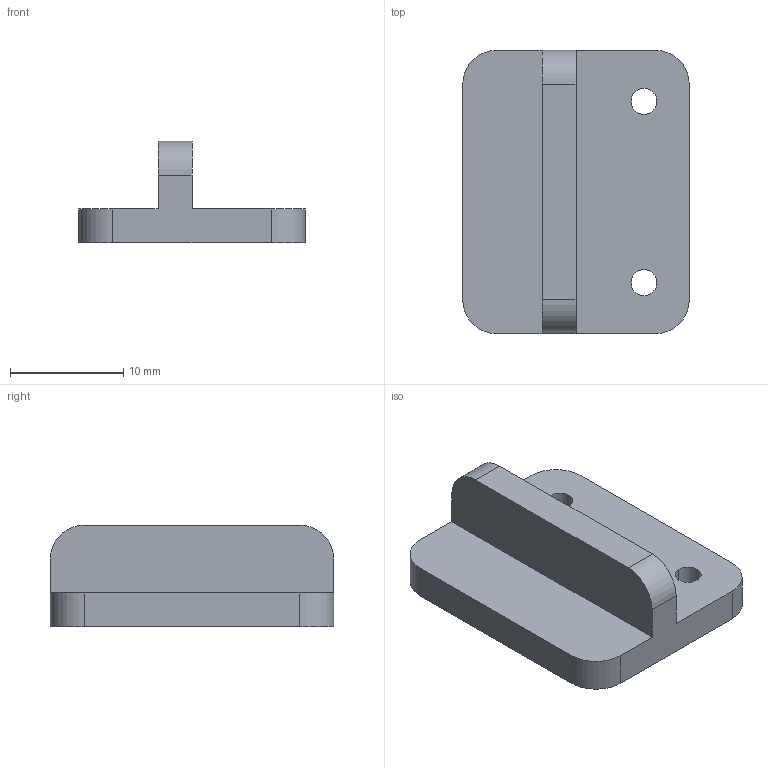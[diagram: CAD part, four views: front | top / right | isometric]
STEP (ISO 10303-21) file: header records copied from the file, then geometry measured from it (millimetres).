
FILE_DESCRIPTION((''),'2;1');
FILE_NAME('00','2026-07-21T10:43:01',('Admin'),(''),'CREO PARAMETRIC BY PTC INC, 2025183','CREO PARAMETRIC BY PTC INC, 2025183','');
FILE_SCHEMA(('CONFIG_CONTROL_DESIGN'));
Length unit declared in the file: millimetre
Products named in the file (1): 00
Bounding box: 20 x 25 x 9 mm (x, y, z)
Volume: 1890.3 mm3; surface area: 1586.4 mm2
Topology: 1 solids, 1 shells, 20 faces, 54 edges, 36 vertices
Faces by surface type: plane 10, cylinder 10
Entity records: 684 total; most frequent: DIRECTION 114, CARTESIAN_POINT 110, ORIENTED_EDGE 108, EDGE_CURVE 54, AXIS2_PLACEMENT_3D 40, VERTEX_POINT 36, VECTOR 34, LINE 34
